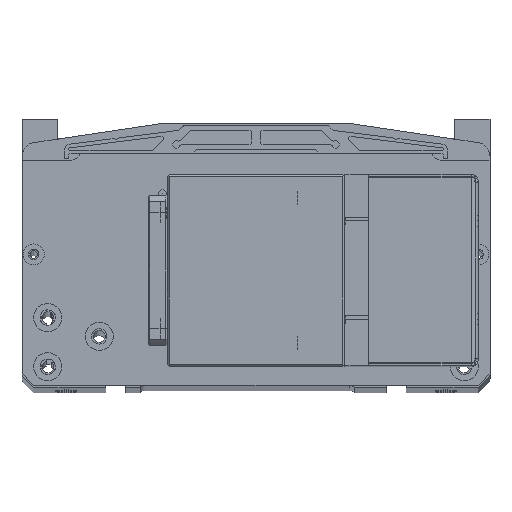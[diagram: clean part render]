
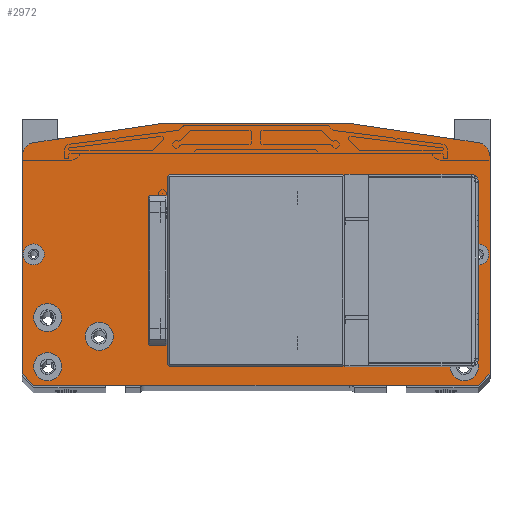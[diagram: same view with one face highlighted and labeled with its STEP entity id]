
A CAD part, top view. The second image highlights one B-rep face of the part: STEP entity #2972.
In plain terms, the highlighted planar face has unit normal (0, 0, 1).
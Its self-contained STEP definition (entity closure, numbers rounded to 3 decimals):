
#584=FACE_BOUND('',#5393,.T.);
#585=FACE_BOUND('',#5394,.T.);
#586=FACE_BOUND('',#5395,.T.);
#587=FACE_BOUND('',#5396,.T.);
#588=FACE_BOUND('',#5397,.T.);
#589=FACE_BOUND('',#5398,.T.);
#590=FACE_BOUND('',#5399,.T.);
#591=FACE_BOUND('',#5400,.T.);
#592=FACE_BOUND('',#5401,.T.);
#593=FACE_BOUND('',#5402,.T.);
#594=FACE_BOUND('',#5403,.T.);
#595=FACE_BOUND('',#5404,.T.);
#596=FACE_BOUND('',#5405,.T.);
#1249=PLANE('',#19746);
#1966=CIRCLE('',#19628,1.65);
#1981=CIRCLE('',#19657,1.65);
#1986=CIRCLE('',#19671,6.);
#1993=CIRCLE('',#19685,6.);
#1994=CIRCLE('',#19688,4.5);
#1998=CIRCLE('',#19695,4.5);
#2002=CIRCLE('',#19702,6.);
#2006=CIRCLE('',#19709,6.);
#2010=CIRCLE('',#19716,6.);
#2014=CIRCLE('',#19723,6.);
#2018=CIRCLE('',#19730,6.);
#2022=CIRCLE('',#19737,6.);
#2972=ADVANCED_FACE('',(#584,#585,#586,#587,#588,#589,#590,#591,#592,#593,
#594,#595,#596),#1249,.F.);
#5393=EDGE_LOOP('',(#12136,#12137,#12138,#12139));
#5394=EDGE_LOOP('',(#12140,#12141,#12142,#12143));
#5395=EDGE_LOOP('',(#12144));
#5396=EDGE_LOOP('',(#12145));
#5397=EDGE_LOOP('',(#12146,#12147,#12148,#12149,#12150,#12151,#12152,#12153,
#12154,#12155));
#5398=EDGE_LOOP('',(#12156));
#5399=EDGE_LOOP('',(#12157));
#5400=EDGE_LOOP('',(#12158));
#5401=EDGE_LOOP('',(#12159));
#5402=EDGE_LOOP('',(#12160));
#5403=EDGE_LOOP('',(#12161));
#5404=EDGE_LOOP('',(#12162));
#5405=EDGE_LOOP('',(#12163));
#6136=LINE('',#27847,#7561);
#6332=LINE('',#28926,#7757);
#6352=LINE('',#28971,#7777);
#6957=LINE('',#32987,#8382);
#6961=LINE('',#32995,#8386);
#6964=LINE('',#33001,#8389);
#6984=LINE('',#33037,#8409);
#7004=LINE('',#33209,#8429);
#7006=LINE('',#33212,#8431);
#7012=LINE('',#33225,#8437);
#7015=LINE('',#33231,#8440);
#7028=LINE('',#33267,#8453);
#7030=LINE('',#33352,#8455);
#7031=LINE('',#33355,#8456);
#7032=LINE('',#33357,#8457);
#7033=LINE('',#33359,#8458);
#7561=VECTOR('',#21073,1.);
#7757=VECTOR('',#21529,1.);
#7777=VECTOR('',#21579,1.);
#8382=VECTOR('',#23632,1.);
#8386=VECTOR('',#23638,1.);
#8389=VECTOR('',#23643,1.);
#8409=VECTOR('',#23675,1.);
#8429=VECTOR('',#23891,1.);
#8431=VECTOR('',#23895,1.);
#8437=VECTOR('',#23903,1.);
#8440=VECTOR('',#23908,1.);
#8453=VECTOR('',#23955,1.);
#8455=VECTOR('',#24075,1.);
#8456=VECTOR('',#24076,1.);
#8457=VECTOR('',#24077,1.);
#8458=VECTOR('',#24078,1.);
#12136=ORIENTED_EDGE('',*,*,#17608,.F.);
#12137=ORIENTED_EDGE('',*,*,#17609,.F.);
#12138=ORIENTED_EDGE('',*,*,#17610,.T.);
#12139=ORIENTED_EDGE('',*,*,#17611,.T.);
#12140=ORIENTED_EDGE('',*,*,#17451,.T.);
#12141=ORIENTED_EDGE('',*,*,#17454,.T.);
#12142=ORIENTED_EDGE('',*,*,#17474,.T.);
#12143=ORIENTED_EDGE('',*,*,#17447,.T.);
#12144=ORIENTED_EDGE('',*,*,#17509,.T.);
#12145=ORIENTED_EDGE('',*,*,#17537,.T.);
#12146=ORIENTED_EDGE('',*,*,#17542,.F.);
#12147=ORIENTED_EDGE('',*,*,#16384,.T.);
#12148=ORIENTED_EDGE('',*,*,#17574,.F.);
#12149=ORIENTED_EDGE('',*,*,#16408,.T.);
#12150=ORIENTED_EDGE('',*,*,#17573,.F.);
#12151=ORIENTED_EDGE('',*,*,#17544,.F.);
#12152=ORIENTED_EDGE('',*,*,#17550,.T.);
#12153=ORIENTED_EDGE('',*,*,#17553,.F.);
#12154=ORIENTED_EDGE('',*,*,#17554,.F.);
#12155=ORIENTED_EDGE('',*,*,#16102,.T.);
#12156=ORIENTED_EDGE('',*,*,#17604,.T.);
#12157=ORIENTED_EDGE('',*,*,#17600,.T.);
#12158=ORIENTED_EDGE('',*,*,#17596,.T.);
#12159=ORIENTED_EDGE('',*,*,#17592,.T.);
#12160=ORIENTED_EDGE('',*,*,#17588,.T.);
#12161=ORIENTED_EDGE('',*,*,#17584,.T.);
#12162=ORIENTED_EDGE('',*,*,#17580,.T.);
#12163=ORIENTED_EDGE('',*,*,#17576,.T.);
#14249=VERTEX_POINT('',#27846);
#14250=VERTEX_POINT('',#27848);
#14424=VERTEX_POINT('',#28925);
#14425=VERTEX_POINT('',#28927);
#14434=VERTEX_POINT('',#28970);
#14435=VERTEX_POINT('',#28972);
#15117=VERTEX_POINT('',#32977);
#15121=VERTEX_POINT('',#32986);
#15124=VERTEX_POINT('',#32994);
#15126=VERTEX_POINT('',#33000);
#15167=VERTEX_POINT('',#33134);
#15184=VERTEX_POINT('',#33193);
#15191=VERTEX_POINT('',#33213);
#15192=VERTEX_POINT('',#33214);
#15196=VERTEX_POINT('',#33224);
#15198=VERTEX_POINT('',#33230);
#15205=VERTEX_POINT('',#33271);
#15208=VERTEX_POINT('',#33281);
#15211=VERTEX_POINT('',#33291);
#15214=VERTEX_POINT('',#33301);
#15217=VERTEX_POINT('',#33311);
#15220=VERTEX_POINT('',#33321);
#15223=VERTEX_POINT('',#33331);
#15226=VERTEX_POINT('',#33341);
#15229=VERTEX_POINT('',#33353);
#15230=VERTEX_POINT('',#33354);
#15231=VERTEX_POINT('',#33356);
#15232=VERTEX_POINT('',#33358);
#16102=EDGE_CURVE('',#14250,#14249,#6136,.T.);
#16384=EDGE_CURVE('',#14425,#14424,#6332,.T.);
#16408=EDGE_CURVE('',#14435,#14434,#6352,.T.);
#17447=EDGE_CURVE('',#15117,#15121,#6957,.T.);
#17451=EDGE_CURVE('',#15121,#15124,#6961,.T.);
#17454=EDGE_CURVE('',#15124,#15126,#6964,.T.);
#17474=EDGE_CURVE('',#15126,#15117,#6984,.T.);
#17509=EDGE_CURVE('',#15167,#15167,#1966,.T.);
#17537=EDGE_CURVE('',#15184,#15184,#1981,.T.);
#17542=EDGE_CURVE('',#14425,#14249,#7004,.T.);
#17544=EDGE_CURVE('',#15191,#15192,#7006,.T.);
#17550=EDGE_CURVE('',#15191,#15196,#7012,.T.);
#17553=EDGE_CURVE('',#15198,#15196,#7015,.T.);
#17554=EDGE_CURVE('',#14250,#15198,#1986,.T.);
#17573=EDGE_CURVE('',#15192,#14434,#1993,.T.);
#17574=EDGE_CURVE('',#14435,#14424,#7028,.T.);
#17576=EDGE_CURVE('',#15205,#15205,#1994,.T.);
#17580=EDGE_CURVE('',#15208,#15208,#1998,.T.);
#17584=EDGE_CURVE('',#15211,#15211,#2002,.T.);
#17588=EDGE_CURVE('',#15214,#15214,#2006,.T.);
#17592=EDGE_CURVE('',#15217,#15217,#2010,.T.);
#17596=EDGE_CURVE('',#15220,#15220,#2014,.T.);
#17600=EDGE_CURVE('',#15223,#15223,#2018,.T.);
#17604=EDGE_CURVE('',#15226,#15226,#2022,.T.);
#17608=EDGE_CURVE('',#15229,#15230,#7030,.T.);
#17609=EDGE_CURVE('',#15231,#15229,#7031,.T.);
#17610=EDGE_CURVE('',#15231,#15232,#7032,.T.);
#17611=EDGE_CURVE('',#15232,#15230,#7033,.T.);
#19628=AXIS2_PLACEMENT_3D('',#33133,#23800,#23801);
#19657=AXIS2_PLACEMENT_3D('',#33192,#23871,#23872);
#19671=AXIS2_PLACEMENT_3D('',#33233,#23911,#23912);
#19685=AXIS2_PLACEMENT_3D('',#33265,#23951,#23952);
#19688=AXIS2_PLACEMENT_3D('',#33270,#23959,#23960);
#19695=AXIS2_PLACEMENT_3D('',#33280,#23973,#23974);
#19702=AXIS2_PLACEMENT_3D('',#33290,#23987,#23988);
#19709=AXIS2_PLACEMENT_3D('',#33300,#24001,#24002);
#19716=AXIS2_PLACEMENT_3D('',#33310,#24015,#24016);
#19723=AXIS2_PLACEMENT_3D('',#33320,#24029,#24030);
#19730=AXIS2_PLACEMENT_3D('',#33330,#24043,#24044);
#19737=AXIS2_PLACEMENT_3D('',#33340,#24057,#24058);
#19746=AXIS2_PLACEMENT_3D('',#33360,#24079,#24080);
#21073=DIRECTION('',(0.,-1.,0.));
#21529=DIRECTION('',(1.,0.,0.));
#21579=DIRECTION('',(0.,1.,0.));
#23632=DIRECTION('',(0.,1.,0.));
#23638=DIRECTION('',(1.,0.,0.));
#23643=DIRECTION('',(0.,-1.,0.));
#23675=DIRECTION('',(-1.,0.,0.));
#23800=DIRECTION('',(0.,0.,-1.));
#23801=DIRECTION('',(1.,0.,0.));
#23871=DIRECTION('',(0.,0.,-1.));
#23872=DIRECTION('',(1.,0.,0.));
#23891=DIRECTION('',(-0.707,0.707,0.));
#23895=DIRECTION('',(0.989,-0.148,0.));
#23903=DIRECTION('',(-1.,0.,0.));
#23908=DIRECTION('',(0.989,0.148,0.));
#23911=DIRECTION('',(0.,0.,-1.));
#23912=DIRECTION('',(-1.,0.,0.));
#23951=DIRECTION('',(0.,0.,-1.));
#23952=DIRECTION('',(0.148,0.989,0.));
#23955=DIRECTION('',(-0.707,-0.707,0.));
#23959=DIRECTION('',(0.,0.,-1.));
#23960=DIRECTION('',(1.,0.,0.));
#23973=DIRECTION('',(0.,0.,-1.));
#23974=DIRECTION('',(1.,0.,0.));
#23987=DIRECTION('',(0.,0.,-1.));
#23988=DIRECTION('',(1.,0.,0.));
#24001=DIRECTION('',(0.,0.,-1.));
#24002=DIRECTION('',(1.,0.,0.));
#24015=DIRECTION('',(0.,0.,-1.));
#24016=DIRECTION('',(1.,0.,0.));
#24029=DIRECTION('',(0.,0.,-1.));
#24030=DIRECTION('',(1.,0.,0.));
#24043=DIRECTION('',(0.,0.,-1.));
#24044=DIRECTION('',(1.,0.,0.));
#24057=DIRECTION('',(0.,0.,-1.));
#24058=DIRECTION('',(1.,0.,0.));
#24075=DIRECTION('',(1.,0.,0.));
#24076=DIRECTION('',(0.,-1.,0.));
#24077=DIRECTION('',(1.,0.,0.));
#24078=DIRECTION('',(0.,-1.,0.));
#24079=DIRECTION('',(0.,0.,-1.));
#24080=DIRECTION('',(-1.,0.,0.));
#27846=CARTESIAN_POINT('',(-100.,7.,463.));
#27847=CARTESIAN_POINT('',(-100.,99.833,463.));
#27848=CARTESIAN_POINT('',(-100.,99.833,463.));
#28925=CARTESIAN_POINT('',(95.,2.,463.));
#28926=CARTESIAN_POINT('',(67.5,2.,463.));
#28927=CARTESIAN_POINT('',(-95.,2.,463.));
#28970=CARTESIAN_POINT('',(100.,99.833,463.));
#28971=CARTESIAN_POINT('',(100.,7.,463.));
#28972=CARTESIAN_POINT('',(100.,7.,463.));
#32977=CARTESIAN_POINT('',(-37.,11.,463.));
#32986=CARTESIAN_POINT('',(-37.,91.,463.));
#32987=CARTESIAN_POINT('',(-37.,11.,463.));
#32994=CARTESIAN_POINT('',(37.,91.,463.));
#32995=CARTESIAN_POINT('',(-37.,91.,463.));
#33000=CARTESIAN_POINT('',(37.,11.,463.));
#33001=CARTESIAN_POINT('',(37.,91.,463.));
#33037=CARTESIAN_POINT('',(37.,11.,463.));
#33133=CARTESIAN_POINT('',(42.,69.,463.));
#33134=CARTESIAN_POINT('',(43.65,69.,463.));
#33192=CARTESIAN_POINT('',(42.,33.,463.));
#33193=CARTESIAN_POINT('',(43.65,33.,463.));
#33209=CARTESIAN_POINT('',(-95.,2.,463.));
#33212=CARTESIAN_POINT('',(40.,114.,463.));
#33213=CARTESIAN_POINT('',(40.,114.,463.));
#33214=CARTESIAN_POINT('',(94.89,105.766,463.));
#33224=CARTESIAN_POINT('',(-40.,114.,463.));
#33225=CARTESIAN_POINT('',(40.,114.,463.));
#33230=CARTESIAN_POINT('',(-94.89,105.766,463.));
#33231=CARTESIAN_POINT('',(-94.89,105.766,463.));
#33233=CARTESIAN_POINT('',(-94.,99.833,463.));
#33265=CARTESIAN_POINT('',(94.,99.833,463.));
#33267=CARTESIAN_POINT('',(100.,7.,463.));
#33270=CARTESIAN_POINT('',(-95.,58.,463.));
#33271=CARTESIAN_POINT('',(-90.5,58.,463.));
#33280=CARTESIAN_POINT('',(95.,58.,463.));
#33281=CARTESIAN_POINT('',(99.5,58.,463.));
#33290=CARTESIAN_POINT('',(-67.,23.,463.));
#33291=CARTESIAN_POINT('',(-61.,23.,463.));
#33300=CARTESIAN_POINT('',(67.,23.,463.));
#33301=CARTESIAN_POINT('',(73.,23.,463.));
#33310=CARTESIAN_POINT('',(-89.,31.,463.));
#33311=CARTESIAN_POINT('',(-83.,31.,463.));
#33320=CARTESIAN_POINT('',(89.,31.,463.));
#33321=CARTESIAN_POINT('',(95.,31.,463.));
#33330=CARTESIAN_POINT('',(-89.,10.,463.));
#33331=CARTESIAN_POINT('',(-83.,10.,463.));
#33340=CARTESIAN_POINT('',(89.,10.,463.));
#33341=CARTESIAN_POINT('',(95.,10.,463.));
#33352=CARTESIAN_POINT('',(-45.5,21.534,463.));
#33353=CARTESIAN_POINT('',(-45.5,21.534,463.));
#33354=CARTESIAN_POINT('',(-38.5,21.534,463.));
#33355=CARTESIAN_POINT('',(-45.5,80.466,463.));
#33356=CARTESIAN_POINT('',(-45.5,80.466,463.));
#33357=CARTESIAN_POINT('',(-45.5,80.466,463.));
#33358=CARTESIAN_POINT('',(-38.5,80.466,463.));
#33359=CARTESIAN_POINT('',(-38.5,80.466,463.));
#33360=CARTESIAN_POINT('',(0.,2.,463.));
